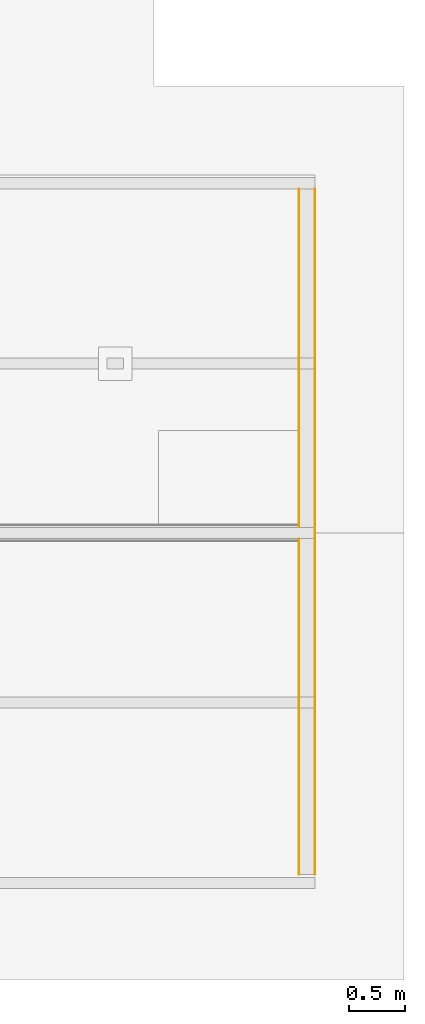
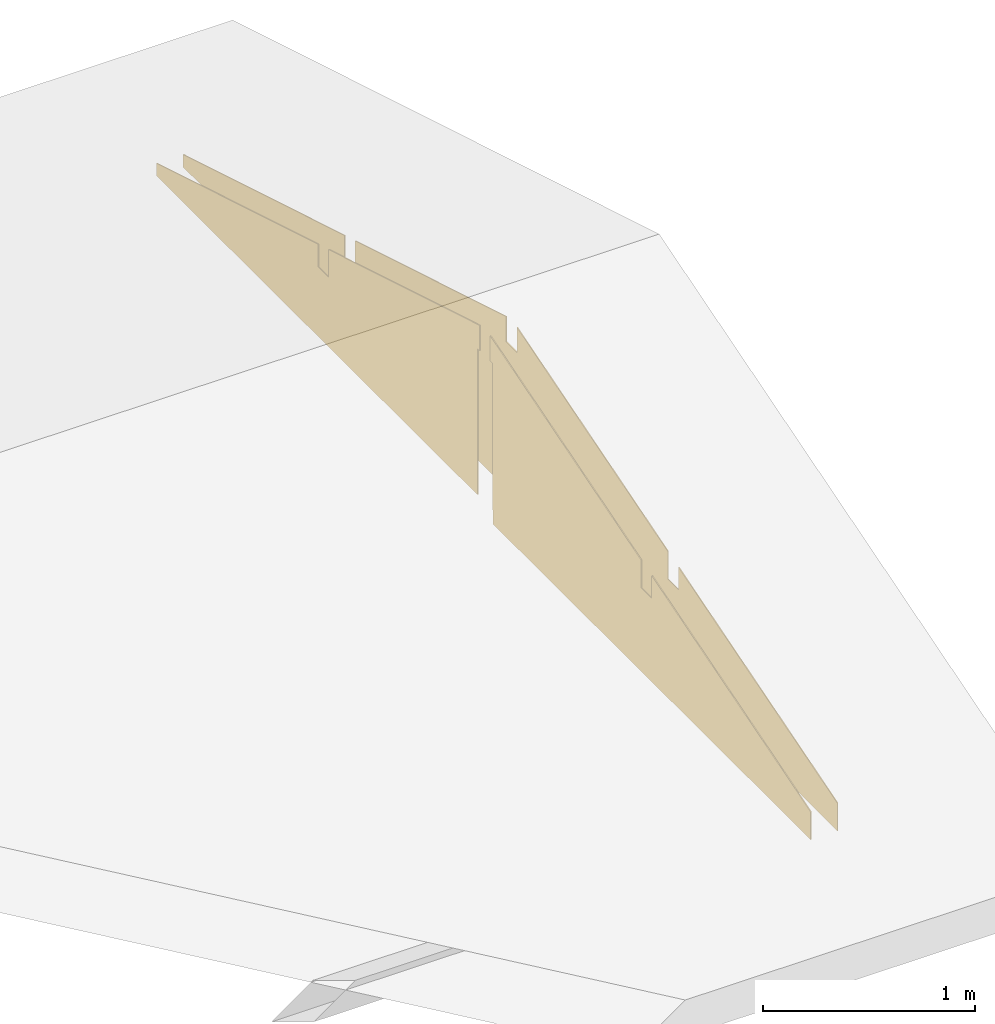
# One storey, part 4 of 4: 2 coverings, 1 element without a shape of its own.
"""IFC2X3 building model written with IfcOpenShell, lengths in millimetres."""

from ifc_helpers import new_model, entity, si_unit, converted_unit, derived_unit, money_unit, direction, frame, origin_with_axes, place, context, subcontext, project, spatial, polyline, outline, extrude, boolean, faceted_brep, material, type_object, element, aggregate, save


model = new_model("IFC2X3")

# Units and contexts
model_context = context("Model", 3, precision=0.01, world=origin_with_axes(), true_north=direction((0.0, 1.0)))
body_context = subcontext(model_context, "Body", "Model", "MODEL_VIEW")
ifc_project = project(units=[si_unit("LENGTHUNIT", "METRE", prefix="MILLI"), si_unit("AREAUNIT", "SQUARE_METRE"), si_unit("VOLUMEUNIT", "CUBIC_METRE"), converted_unit("PLANEANGLEUNIT", "DEGREE", entity("IfcPlaneAngleMeasure", 0.0174532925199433), si_unit("PLANEANGLEUNIT", "RADIAN"), dimensions=[0, 0, 0, 0, 0, 0, 0]), money_unit("USD"), converted_unit("TIMEUNIT", "Year", entity("IfcTimeMeasure", 31557600.0), si_unit("TIMEUNIT", "SECOND"), dimensions=[0, 0, 1, 0, 0, 0, 0]), si_unit("MASSUNIT", "GRAM", prefix="KILO"), si_unit("THERMODYNAMICTEMPERATUREUNIT", "DEGREE_CELSIUS"), si_unit("LUMINOUSINTENSITYUNIT", "LUMEN"), si_unit("ENERGYUNIT", "JOULE", prefix="MEGA"), derived_unit("THERMALCONDUCTANCEUNIT", [(si_unit("POWERUNIT", "WATT"), 1), (si_unit("LENGTHUNIT", "METRE"), -1), (si_unit("THERMODYNAMICTEMPERATUREUNIT", "KELVIN"), -1)]), derived_unit("SPECIFICHEATCAPACITYUNIT", [(si_unit("ENERGYUNIT", "JOULE"), 1), (si_unit("MASSUNIT", "GRAM", prefix="KILO"), -1), (si_unit("THERMODYNAMICTEMPERATUREUNIT", "KELVIN"), -1)]), derived_unit("MASSDENSITYUNIT", [(si_unit("MASSUNIT", "GRAM", prefix="KILO"), 1), (si_unit("VOLUMEUNIT", "CUBIC_METRE"), -1)])], contexts=[model_context])

# Site, building, storey
site_placement = place(None, origin_with_axes())
site = spatial("IfcSite", under=ifc_project, at=site_placement, Name="Local", CompositionType="ELEMENT")
building_placement = place(site_placement, origin_with_axes())
building = spatial("IfcBuilding", under=site, at=building_placement, Name="Construção", CompositionType="ELEMENT")
storey_placement = place(building_placement, frame((0.0, 0.0, 2500.0), z_axis=(0.0, 0.0, 1.0), x_axis=(1.0, 0.0, 0.0)))
storey = spatial("IfcBuildingStorey", under=building, at=storey_placement, Name="Cobertura", CompositionType="ELEMENT", Elevation=2500.0)

# Wall, coverings
wall_type = type_object("IfcWallType", Name="Alvenaria 140, Rebocada 2 Faces 150", PredefinedType="NOTDEFINED")
wall_placement = place(storey_placement, frame((8500.0, 149.9999999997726, 0.0), z_axis=(0.0, 0.0, 1.0), x_axis=(0.0, 1.0, 0.0)))
wall = element("IfcWall", 1, at=wall_placement, inside=storey, type_object=wall_type, Name="Parede-10")
ifc_material = material(Name="Reboco DEF")
covering_1_placement = place(wall_placement, origin_with_axes())
covering_1 = element("IfcCovering", 2, at=covering_1_placement, material=ifc_material, Name="Reboco DEF", PredefinedType="CLADDING", context=body_context, shape_type="CSG", body=[
    boolean("DIFFERENCE", boolean("DIFFERENCE", boolean("DIFFERENCE", boolean("DIFFERENCE", boolean("DIFFERENCE", extrude(outline(polyline([(0.0, 0.0), (6175.000000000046, 0.0), (6175.000000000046, 5.000000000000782), (0.0, 5.000000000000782), (0.0, 0.0)])), origin_with_axes(), (0.0, 0.0, 1.0), 1176.306130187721), faceted_brep([(6175.000000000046, 5.000000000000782, 80.00000000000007), (6175.000000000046, 0.0, 80.00000000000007), (6175.000000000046, 0.0, 0.0), (6175.000000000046, 5.000000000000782, 0.0), (3000.000000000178, 0.0, 80.00000000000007), (3000.000000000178, 5.000000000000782, 80.00000000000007), (3000.000000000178, 0.0, 0.0), (3000.000000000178, 5.000000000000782, 0.0)], [[[0, 1, 2, 3]], [[4, 1, 0, 5]], [[4, 6, 2, 1]], [[6, 7, 3, 2]], [[5, 0, 3, 7]], [[6, 4, 5, 7]]])), faceted_brep([(4650.000000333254, 0.0, 480.4517407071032), (4650.000000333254, 0.0, 610.4517409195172), (6175.000000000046, 0.0, 152.951741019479), (6175.000000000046, 0.0, 1176.306130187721), (0.0, 0.0, 1176.306130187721), (0.0, 0.0, 160.4517405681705), (1500.000000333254, 0.0, 610.4517406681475), (1500.000000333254, 0.0, 480.4517406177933), (1600.000000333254, 0.0, 480.4517406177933), (1600.000000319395, 0.0, 640.4517406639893), (3025.000000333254, 0.0, 1067.951740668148), (3025.000000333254, 0.0, 922.9517406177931), (3125.000000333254, 0.0, 922.9517406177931), (3125.000000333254, 0.0, 1067.951740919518), (4550.000000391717, 0.0, 640.4517409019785), (4550.000000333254, 0.0, 480.4517407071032), (4650.000000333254, 5.000000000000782, 480.4517407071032), (4650.000000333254, 5.000000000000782, 610.4517409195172), (6175.000000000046, 5.000000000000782, 152.951741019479), (6175.000000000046, 5.000000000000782, 1176.306130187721), (0.0, 5.000000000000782, 1176.306130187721), (0.0, 5.000000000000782, 160.4517405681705), (1500.000000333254, 5.000000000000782, 610.4517406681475), (1500.000000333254, 5.000000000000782, 480.4517406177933), (1600.000000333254, 5.000000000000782, 480.4517406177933), (1600.000000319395, 5.000000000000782, 640.4517406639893), (3025.000000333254, 5.000000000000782, 1067.951740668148), (3025.000000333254, 5.000000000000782, 922.9517406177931), (3125.000000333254, 5.000000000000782, 922.9517406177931), (3125.000000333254, 5.000000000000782, 1067.951740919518), (4550.000000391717, 5.000000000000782, 640.4517409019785), (4550.000000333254, 5.000000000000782, 480.4517407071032)], [[[0, 1, 2, 3, 4, 5, 6, 7, 8, 9, 10, 11, 12, 13, 14, 15]], [[1, 0, 16, 17]], [[18, 2, 1, 17]], [[2, 18, 19, 3]], [[20, 4, 3, 19]], [[21, 5, 4, 20]], [[6, 5, 21, 22]], [[7, 6, 22, 23]], [[8, 7, 23, 24]], [[9, 8, 24, 25]], [[10, 9, 25, 26]], [[11, 10, 26, 27]], [[12, 11, 27, 28]], [[13, 12, 28, 29]], [[14, 13, 29, 30]], [[15, 14, 30, 31]], [[0, 15, 31, 16]], [[22, 21, 20, 19, 18, 17, 16, 31, 30, 29, 28, 27, 26, 25, 24, 23]]])), faceted_brep([(6175.000000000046, 144.9999999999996, 80.00000000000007), (6175.000000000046, 5.000000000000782, 80.00000000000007), (6175.000000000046, 5.000000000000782, 0.0), (6175.000000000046, 144.9999999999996, 0.0), (3000.000000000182, 144.9999999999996, 80.00000000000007), (3000.000000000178, 5.000000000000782, 80.00000000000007), (3000.000000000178, 5.000000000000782, 0.0), (3000.000000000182, 144.9999999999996, 0.0)], [[[0, 1, 2, 3]], [[1, 0, 4, 5]], [[5, 6, 2, 1]], [[6, 7, 3, 2]], [[0, 3, 7, 4]], [[7, 6, 5, 4]]])), faceted_brep([(4650.000000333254, 5.000000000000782, 480.4517407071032), (4650.000000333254, 5.000000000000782, 610.4517409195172), (6175.000000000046, 5.000000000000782, 152.951741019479), (6175.000000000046, 5.000000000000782, 1176.306130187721), (0.0, 5.000000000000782, 1176.306130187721), (0.0, 5.000000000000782, 160.4517405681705), (1500.000000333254, 5.000000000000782, 610.4517406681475), (1500.000000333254, 5.000000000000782, 480.4517406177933), (1600.000000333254, 5.000000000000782, 480.4517406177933), (1600.000000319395, 5.000000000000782, 640.4517406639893), (3025.000000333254, 5.000000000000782, 1067.951740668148), (3025.000000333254, 5.000000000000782, 922.9517406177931), (3125.000000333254, 5.000000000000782, 922.9517406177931), (3125.000000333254, 5.000000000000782, 1067.951740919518), (4550.000000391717, 5.000000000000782, 640.4517409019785), (4550.000000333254, 5.000000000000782, 480.4517407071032), (4650.000000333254, 144.9999999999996, 480.4517407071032), (4650.000000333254, 144.9999999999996, 610.4517409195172), (6175.000000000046, 144.9999999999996, 152.951741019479), (6175.000000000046, 144.9999999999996, 1176.306130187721), (0.0, 144.9999999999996, 1176.306130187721), (0.0, 144.9999999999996, 160.4517405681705), (1500.000000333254, 144.9999999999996, 610.4517406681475), (1500.000000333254, 144.9999999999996, 480.4517406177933), (1600.000000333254, 144.9999999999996, 480.4517406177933), (1600.000000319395, 144.9999999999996, 640.4517406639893), (3025.000000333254, 144.9999999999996, 1067.951740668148), (3025.000000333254, 144.9999999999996, 922.9517406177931), (3125.000000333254, 144.9999999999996, 922.9517406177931), (3125.000000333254, 144.9999999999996, 1067.951740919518), (4550.000000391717, 144.9999999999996, 640.4517409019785), (4550.000000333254, 144.9999999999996, 480.4517407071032)], [[[0, 1, 2, 3, 4, 5, 6, 7, 8, 9, 10, 11, 12, 13, 14, 15]], [[0, 16, 17, 1]], [[18, 2, 1, 17]], [[2, 18, 19, 3]], [[20, 4, 3, 19]], [[21, 5, 4, 20]], [[6, 5, 21, 22]], [[23, 7, 6, 22]], [[24, 8, 7, 23]], [[8, 24, 25, 9]], [[10, 9, 25, 26]], [[27, 11, 10, 26]], [[27, 28, 12, 11]], [[12, 28, 29, 13]], [[14, 13, 29, 30]], [[31, 15, 14, 30]], [[16, 0, 15, 31]], [[22, 21, 20, 19, 18, 17, 16, 31, 30, 29, 28, 27, 26, 25, 24, 23]]])), faceted_brep([(4650.000000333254, 144.9999999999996, 480.4517407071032), (4650.000000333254, 144.9999999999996, 610.4517409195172), (6175.000000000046, 144.9999999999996, 152.951741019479), (6175.000000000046, 144.9999999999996, 1176.306130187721), (0.0, 144.9999999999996, 1176.306130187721), (0.0, 144.9999999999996, 160.4517405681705), (1500.000000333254, 144.9999999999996, 610.4517406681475), (1500.000000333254, 144.9999999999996, 480.4517406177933), (1600.000000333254, 144.9999999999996, 480.4517406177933), (1600.000000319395, 144.9999999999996, 640.4517406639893), (3025.000000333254, 144.9999999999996, 1067.951740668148), (3025.000000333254, 144.9999999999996, 922.9517406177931), (3005.000000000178, 144.9999999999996, 922.9517406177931), (3005.000000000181, 144.9999999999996, 80.00000000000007), (3000.000000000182, 144.9999999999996, 80.00000000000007), (3000.000000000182, 144.9999999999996, 0.0), (6175.000000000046, 144.9999999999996, 0.0), (6175.000000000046, 144.9999999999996, 80.00000000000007), (3145.000000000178, 144.9999999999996, 80.00000000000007), (3145.000000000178, 144.9999999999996, 922.9517406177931), (3125.000000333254, 144.9999999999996, 922.9517406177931), (3125.000000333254, 144.9999999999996, 1067.951740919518), (4550.000000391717, 144.9999999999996, 640.4517409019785), (4550.000000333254, 144.9999999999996, 480.4517407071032), (4650.000000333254, 150.0000000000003, 480.4517407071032), (4650.000000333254, 150.0000000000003, 610.4517409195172), (6175.000000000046, 150.0000000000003, 152.9517410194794), (6175.000000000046, 150.0000000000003, 1176.306130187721), (0.0, 150.0000000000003, 1176.306130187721), (0.0, 150.0000000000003, 160.4517405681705), (1500.000000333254, 150.0000000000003, 610.4517406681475), (1500.000000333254, 150.0000000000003, 480.4517406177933), (1600.000000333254, 150.0000000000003, 480.4517406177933), (1600.000000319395, 150.0000000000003, 640.4517406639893), (3025.000000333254, 150.0000000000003, 1067.951740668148), (3025.000000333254, 150.0000000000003, 922.9517406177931), (3005.000000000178, 150.0000000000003, 922.9517406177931), (3005.000000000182, 150.0000000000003, 80.00000000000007), (3000.000000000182, 150.0000000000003, 80.00000000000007), (3000.000000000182, 150.0000000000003, 0.0), (6175.000000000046, 150.0000000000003, 0.0), (6175.000000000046, 150.0000000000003, 80.00000000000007), (3145.000000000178, 150.0000000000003, 80.00000000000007), (3145.000000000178, 150.0000000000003, 922.9517406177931), (3125.000000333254, 149.9999999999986, 922.9517406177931), (3125.000000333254, 150.0000000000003, 1067.951740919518), (4550.000000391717, 150.0000000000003, 640.4517409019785), (4550.000000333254, 150.0000000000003, 480.4517407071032)], [[[0, 1, 2, 3, 4, 5, 6, 7, 8, 9, 10, 11, 12, 13, 14, 15, 16, 17, 18, 19, 20, 21, 22, 23]], [[24, 25, 1, 0]], [[26, 2, 1, 25]], [[2, 26, 27, 3]], [[28, 4, 3, 27]], [[29, 5, 4, 28]], [[6, 5, 29, 30]], [[30, 31, 7, 6]], [[31, 32, 8, 7]], [[32, 33, 9, 8]], [[10, 9, 33, 34]], [[34, 35, 11, 10]], [[12, 11, 35, 36]], [[13, 12, 36, 37]], [[37, 38, 14, 13]], [[39, 15, 14, 38]], [[15, 39, 40, 16]], [[41, 17, 16, 40]], [[17, 41, 42, 18]], [[19, 18, 42, 43]], [[20, 19, 43, 44]], [[44, 45, 21, 20]], [[22, 21, 45, 46]], [[46, 47, 23, 22]], [[47, 24, 0, 23]], [[42, 41, 40, 39, 38, 37, 36, 35, 34, 33, 32, 31, 30, 29, 28, 27, 26, 25, 24, 47, 46, 45, 44, 43]]])),
])
covering_2_placement = place(wall_placement, origin_with_axes())
covering_2 = element("IfcCovering", 3, at=covering_2_placement, material=ifc_material, Name="Reboco DEF", PredefinedType="CLADDING", context=body_context, shape_type="CSG", body=[
    boolean("DIFFERENCE", boolean("DIFFERENCE", boolean("DIFFERENCE", boolean("DIFFERENCE", boolean("DIFFERENCE", extrude(outline(polyline([(0.0, 144.9999999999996), (6175.000000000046, 144.9999999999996), (6175.000000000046, 150.0000000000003), (0.0, 150.0000000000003), (0.0, 144.9999999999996)])), origin_with_axes(), (0.0, 0.0, 1.0), 1176.306130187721), faceted_brep([(6175.000000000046, 5.000000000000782, 80.00000000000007), (6175.000000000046, 0.0, 80.00000000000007), (6175.000000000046, 0.0, 0.0), (6175.000000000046, 5.000000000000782, 0.0), (3000.000000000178, 0.0, 80.00000000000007), (3000.000000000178, 5.000000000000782, 80.00000000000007), (3000.000000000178, 0.0, 0.0), (3000.000000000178, 5.000000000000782, 0.0)], [[[0, 1, 2, 3]], [[4, 1, 0, 5]], [[4, 6, 2, 1]], [[6, 7, 3, 2]], [[5, 0, 3, 7]], [[6, 4, 5, 7]]])), faceted_brep([(4650.000000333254, 0.0, 480.4517407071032), (4650.000000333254, 0.0, 610.4517409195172), (6175.000000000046, 0.0, 152.951741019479), (6175.000000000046, 0.0, 1176.306130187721), (0.0, 0.0, 1176.306130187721), (0.0, 0.0, 160.4517405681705), (1500.000000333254, 0.0, 610.4517406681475), (1500.000000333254, 0.0, 480.4517406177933), (1600.000000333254, 0.0, 480.4517406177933), (1600.000000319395, 0.0, 640.4517406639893), (3025.000000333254, 0.0, 1067.951740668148), (3025.000000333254, 0.0, 922.9517406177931), (3125.000000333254, 0.0, 922.9517406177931), (3125.000000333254, 0.0, 1067.951740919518), (4550.000000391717, 0.0, 640.4517409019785), (4550.000000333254, 0.0, 480.4517407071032), (4650.000000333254, 5.000000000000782, 480.4517407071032), (4650.000000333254, 5.000000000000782, 610.4517409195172), (6175.000000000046, 5.000000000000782, 152.951741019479), (6175.000000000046, 5.000000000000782, 1176.306130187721), (0.0, 5.000000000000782, 1176.306130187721), (0.0, 5.000000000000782, 160.4517405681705), (1500.000000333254, 5.000000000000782, 610.4517406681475), (1500.000000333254, 5.000000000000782, 480.4517406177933), (1600.000000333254, 5.000000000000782, 480.4517406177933), (1600.000000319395, 5.000000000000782, 640.4517406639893), (3025.000000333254, 5.000000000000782, 1067.951740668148), (3025.000000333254, 5.000000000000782, 922.9517406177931), (3125.000000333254, 5.000000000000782, 922.9517406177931), (3125.000000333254, 5.000000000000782, 1067.951740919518), (4550.000000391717, 5.000000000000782, 640.4517409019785), (4550.000000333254, 5.000000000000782, 480.4517407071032)], [[[0, 1, 2, 3, 4, 5, 6, 7, 8, 9, 10, 11, 12, 13, 14, 15]], [[1, 0, 16, 17]], [[18, 2, 1, 17]], [[2, 18, 19, 3]], [[20, 4, 3, 19]], [[21, 5, 4, 20]], [[6, 5, 21, 22]], [[7, 6, 22, 23]], [[8, 7, 23, 24]], [[9, 8, 24, 25]], [[10, 9, 25, 26]], [[11, 10, 26, 27]], [[12, 11, 27, 28]], [[13, 12, 28, 29]], [[14, 13, 29, 30]], [[15, 14, 30, 31]], [[0, 15, 31, 16]], [[22, 21, 20, 19, 18, 17, 16, 31, 30, 29, 28, 27, 26, 25, 24, 23]]])), faceted_brep([(6175.000000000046, 144.9999999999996, 80.00000000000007), (6175.000000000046, 5.000000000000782, 80.00000000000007), (6175.000000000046, 5.000000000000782, 0.0), (6175.000000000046, 144.9999999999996, 0.0), (3000.000000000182, 144.9999999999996, 80.00000000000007), (3000.000000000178, 5.000000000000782, 80.00000000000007), (3000.000000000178, 5.000000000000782, 0.0), (3000.000000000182, 144.9999999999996, 0.0)], [[[0, 1, 2, 3]], [[1, 0, 4, 5]], [[5, 6, 2, 1]], [[6, 7, 3, 2]], [[0, 3, 7, 4]], [[7, 6, 5, 4]]])), faceted_brep([(4650.000000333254, 5.000000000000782, 480.4517407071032), (4650.000000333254, 5.000000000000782, 610.4517409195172), (6175.000000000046, 5.000000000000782, 152.951741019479), (6175.000000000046, 5.000000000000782, 1176.306130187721), (0.0, 5.000000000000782, 1176.306130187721), (0.0, 5.000000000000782, 160.4517405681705), (1500.000000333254, 5.000000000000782, 610.4517406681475), (1500.000000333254, 5.000000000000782, 480.4517406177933), (1600.000000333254, 5.000000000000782, 480.4517406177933), (1600.000000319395, 5.000000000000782, 640.4517406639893), (3025.000000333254, 5.000000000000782, 1067.951740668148), (3025.000000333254, 5.000000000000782, 922.9517406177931), (3125.000000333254, 5.000000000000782, 922.9517406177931), (3125.000000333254, 5.000000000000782, 1067.951740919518), (4550.000000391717, 5.000000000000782, 640.4517409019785), (4550.000000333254, 5.000000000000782, 480.4517407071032), (4650.000000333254, 144.9999999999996, 480.4517407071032), (4650.000000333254, 144.9999999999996, 610.4517409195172), (6175.000000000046, 144.9999999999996, 152.951741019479), (6175.000000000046, 144.9999999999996, 1176.306130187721), (0.0, 144.9999999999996, 1176.306130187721), (0.0, 144.9999999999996, 160.4517405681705), (1500.000000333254, 144.9999999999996, 610.4517406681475), (1500.000000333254, 144.9999999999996, 480.4517406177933), (1600.000000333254, 144.9999999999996, 480.4517406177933), (1600.000000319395, 144.9999999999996, 640.4517406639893), (3025.000000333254, 144.9999999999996, 1067.951740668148), (3025.000000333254, 144.9999999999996, 922.9517406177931), (3125.000000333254, 144.9999999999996, 922.9517406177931), (3125.000000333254, 144.9999999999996, 1067.951740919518), (4550.000000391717, 144.9999999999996, 640.4517409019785), (4550.000000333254, 144.9999999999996, 480.4517407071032)], [[[0, 1, 2, 3, 4, 5, 6, 7, 8, 9, 10, 11, 12, 13, 14, 15]], [[0, 16, 17, 1]], [[18, 2, 1, 17]], [[2, 18, 19, 3]], [[20, 4, 3, 19]], [[21, 5, 4, 20]], [[6, 5, 21, 22]], [[23, 7, 6, 22]], [[24, 8, 7, 23]], [[8, 24, 25, 9]], [[10, 9, 25, 26]], [[27, 11, 10, 26]], [[27, 28, 12, 11]], [[12, 28, 29, 13]], [[14, 13, 29, 30]], [[31, 15, 14, 30]], [[16, 0, 15, 31]], [[22, 21, 20, 19, 18, 17, 16, 31, 30, 29, 28, 27, 26, 25, 24, 23]]])), faceted_brep([(4650.000000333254, 144.9999999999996, 480.4517407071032), (4650.000000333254, 144.9999999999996, 610.4517409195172), (6175.000000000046, 144.9999999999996, 152.951741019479), (6175.000000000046, 144.9999999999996, 1176.306130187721), (0.0, 144.9999999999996, 1176.306130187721), (0.0, 144.9999999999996, 160.4517405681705), (1500.000000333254, 144.9999999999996, 610.4517406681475), (1500.000000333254, 144.9999999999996, 480.4517406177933), (1600.000000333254, 144.9999999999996, 480.4517406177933), (1600.000000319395, 144.9999999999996, 640.4517406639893), (3025.000000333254, 144.9999999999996, 1067.951740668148), (3025.000000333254, 144.9999999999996, 922.9517406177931), (3005.000000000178, 144.9999999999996, 922.9517406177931), (3005.000000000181, 144.9999999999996, 80.00000000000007), (3000.000000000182, 144.9999999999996, 80.00000000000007), (3000.000000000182, 144.9999999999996, 0.0), (6175.000000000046, 144.9999999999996, 0.0), (6175.000000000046, 144.9999999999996, 80.00000000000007), (3145.000000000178, 144.9999999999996, 80.00000000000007), (3145.000000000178, 144.9999999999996, 922.9517406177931), (3125.000000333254, 144.9999999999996, 922.9517406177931), (3125.000000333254, 144.9999999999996, 1067.951740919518), (4550.000000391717, 144.9999999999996, 640.4517409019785), (4550.000000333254, 144.9999999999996, 480.4517407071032), (4650.000000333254, 150.0000000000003, 480.4517407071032), (4650.000000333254, 150.0000000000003, 610.4517409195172), (6175.000000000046, 150.0000000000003, 152.9517410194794), (6175.000000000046, 150.0000000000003, 1176.306130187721), (0.0, 150.0000000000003, 1176.306130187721), (0.0, 150.0000000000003, 160.4517405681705), (1500.000000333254, 150.0000000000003, 610.4517406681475), (1500.000000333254, 150.0000000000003, 480.4517406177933), (1600.000000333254, 150.0000000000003, 480.4517406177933), (1600.000000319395, 150.0000000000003, 640.4517406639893), (3025.000000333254, 150.0000000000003, 1067.951740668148), (3025.000000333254, 150.0000000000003, 922.9517406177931), (3005.000000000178, 150.0000000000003, 922.9517406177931), (3005.000000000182, 150.0000000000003, 80.00000000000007), (3000.000000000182, 150.0000000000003, 80.00000000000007), (3000.000000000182, 150.0000000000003, 0.0), (6175.000000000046, 150.0000000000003, 0.0), (6175.000000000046, 150.0000000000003, 80.00000000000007), (3145.000000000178, 150.0000000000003, 80.00000000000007), (3145.000000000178, 150.0000000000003, 922.9517406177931), (3125.000000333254, 149.9999999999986, 922.9517406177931), (3125.000000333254, 150.0000000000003, 1067.951740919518), (4550.000000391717, 150.0000000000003, 640.4517409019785), (4550.000000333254, 150.0000000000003, 480.4517407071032)], [[[0, 1, 2, 3, 4, 5, 6, 7, 8, 9, 10, 11, 12, 13, 14, 15, 16, 17, 18, 19, 20, 21, 22, 23]], [[24, 25, 1, 0]], [[26, 2, 1, 25]], [[2, 26, 27, 3]], [[28, 4, 3, 27]], [[29, 5, 4, 28]], [[6, 5, 29, 30]], [[30, 31, 7, 6]], [[31, 32, 8, 7]], [[32, 33, 9, 8]], [[10, 9, 33, 34]], [[34, 35, 11, 10]], [[12, 11, 35, 36]], [[13, 12, 36, 37]], [[37, 38, 14, 13]], [[39, 15, 14, 38]], [[15, 39, 40, 16]], [[41, 17, 16, 40]], [[17, 41, 42, 18]], [[19, 18, 42, 43]], [[20, 19, 43, 44]], [[44, 45, 21, 20]], [[22, 21, 45, 46]], [[46, 47, 23, 22]], [[47, 24, 0, 23]], [[42, 41, 40, 39, 38, 37, 36, 35, 34, 33, 32, 31, 30, 29, 28, 27, 26, 25, 24, 47, 46, 45, 44, 43]]])),
])
aggregate(wall, [covering_1, covering_2])

save(model, "model.ifc")
